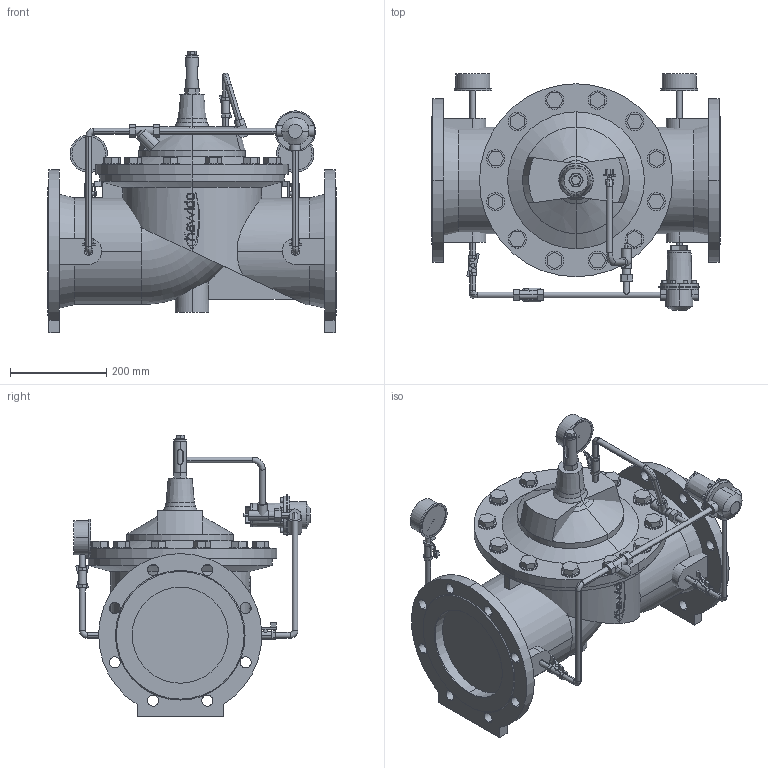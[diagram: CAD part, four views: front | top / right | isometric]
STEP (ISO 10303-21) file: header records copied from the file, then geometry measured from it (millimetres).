
FILE_DESCRIPTION(('STEP AP214'),'1');
FILE_NAME('S:/EK/USER/CAT6/3DHomepage_27-04-2012/CH-Produkte/1500/1500_PN10_DN200.STP','2013-01-18T08:46:48',(' '),(' '),'Spatial InterOp 3D',' ',' ');
FILE_SCHEMA(('automotive_design'));
Length unit declared in the file: millimetre
Products named in the file (179): 3D-Objekt
Bounding box: 600 x 492 x 586.8 mm (x, y, z)
Volume: 38809472.2 mm3; surface area: 2168438.2 mm2
Topology: 179 solids, 179 shells, 1275 faces, 2737 edges, 1822 vertices
Faces by surface type: plane 880, cylinder 345, cone 30, torus 16, bspline 4
Entity records: 49728 total; most frequent: CARTESIAN_POINT 6854, DIRECTION 6409, ORIENTED_EDGE 5474, EDGE_CURVE 2737, AXIS2_PLACEMENT_3D 2245, LINE 1919, VECTOR 1919, VERTEX_POINT 1822
